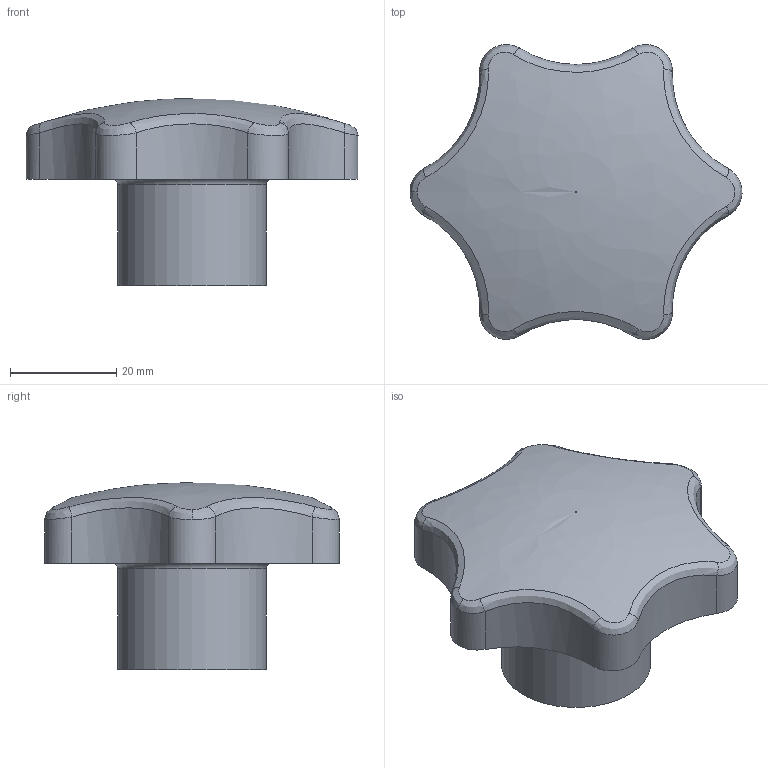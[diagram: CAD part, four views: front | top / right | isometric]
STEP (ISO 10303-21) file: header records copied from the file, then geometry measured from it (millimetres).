
FILE_DESCRIPTION( ('This file contains a STEP AP42 implementation' ,'as created by ZW3D STEP Interface translator.') ,'2;1' );
FILE_NAME( 'Rekojesc gwiazdowa typ C60.stp' ,'26 313.112749', (''), ('ZWCAD Software Co.'), 'Version 1.0', 'ZW3D to STEP translator', '' );
FILE_SCHEMA(('AP242_MANAGED_MODEL_BASED_3D_ENGINEERING_MIM_LF { 1 0 10303 442 1 1 4 }'));
Length unit declared in the file: millimetre
Products named in the file (1): 0
Bounding box: 62.49 x 55.46 x 35.2 mm (x, y, z)
Volume: 40389.4 mm3; surface area: 12569.1 mm2
Topology: 2 solids, 2 shells, 51 faces, 117 edges, 72 vertices
Faces by surface type: plane 18, cylinder 14, bspline 14, cone 4, torus 1
Full cylindrical faces by diameter (mm): 10 x1, 28 x1
Entity records: 2700 total; most frequent: CARTESIAN_POINT 1642, ORIENTED_EDGE 232, DIRECTION 164, EDGE_CURVE 116, VERTEX_POINT 72, AXIS2_PLACEMENT_3D 61, EDGE_LOOP 54, FACE_OUTER_BOUND 51
